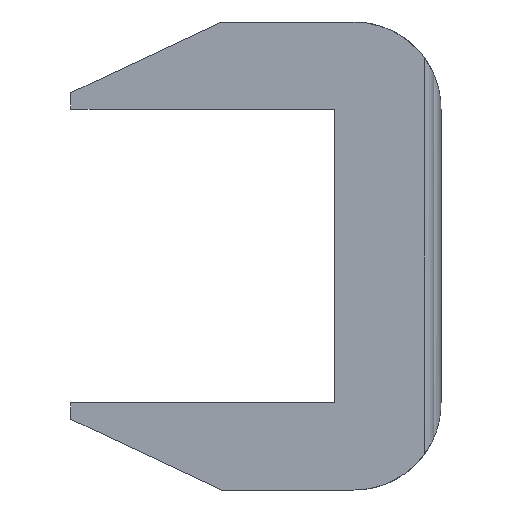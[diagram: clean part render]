
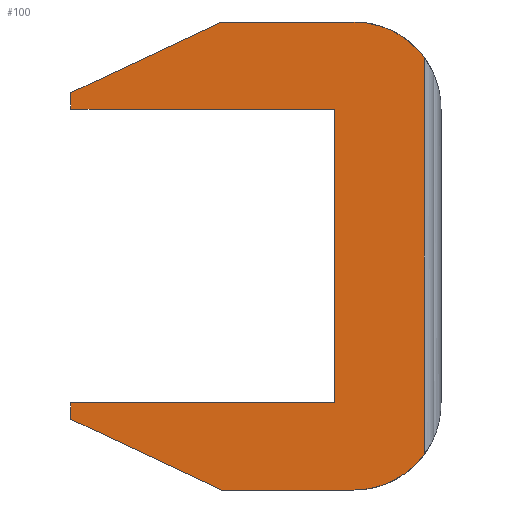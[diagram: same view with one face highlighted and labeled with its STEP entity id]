
A CAD part, front view. The second image highlights one B-rep face of the part: STEP entity #100.
In plain terms, the highlighted planar face has unit normal (0, -1, 0).
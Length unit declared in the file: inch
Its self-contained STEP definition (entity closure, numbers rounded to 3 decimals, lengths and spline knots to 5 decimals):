
#100=ADVANCED_FACE('',(#212),#213,.F.);
#212=FACE_OUTER_BOUND('',#418,.T.);
#213=PLANE('',#419);
#418=EDGE_LOOP('',(#651,#652,#653,#654,#655,#656,#657,#658,#659,#660,#661,#662));
#419=AXIS2_PLACEMENT_3D('',#663,#664,#665);
#651=ORIENTED_EDGE('',*,*,#910,.F.);
#652=ORIENTED_EDGE('',*,*,#911,.F.);
#653=ORIENTED_EDGE('',*,*,#854,.F.);
#654=ORIENTED_EDGE('',*,*,#912,.F.);
#655=ORIENTED_EDGE('',*,*,#913,.F.);
#656=ORIENTED_EDGE('',*,*,#897,.F.);
#657=ORIENTED_EDGE('',*,*,#914,.F.);
#658=ORIENTED_EDGE('',*,*,#915,.F.);
#659=ORIENTED_EDGE('',*,*,#916,.F.);
#660=ORIENTED_EDGE('',*,*,#883,.F.);
#661=ORIENTED_EDGE('',*,*,#917,.F.);
#662=ORIENTED_EDGE('',*,*,#822,.T.);
#663=CARTESIAN_POINT('',(0.14609,0.,-0.19169));
#664=DIRECTION('',(0.0,1.0,0.0));
#665=DIRECTION('',(-1.0,0.0,0.0));
#822=EDGE_CURVE('',#967,#964,#968,.T.);
#854=EDGE_CURVE('',#1021,#1022,#1023,.T.);
#883=EDGE_CURVE('',#1068,#1069,#1070,.T.);
#897=EDGE_CURVE('',#1090,#1091,#1092,.T.);
#910=EDGE_CURVE('',#1109,#964,#1110,.T.);
#911=EDGE_CURVE('',#1022,#1109,#1111,.T.);
#912=EDGE_CURVE('',#1112,#1021,#1113,.T.);
#913=EDGE_CURVE('',#1091,#1112,#1114,.T.);
#914=EDGE_CURVE('',#1115,#1090,#1116,.T.);
#915=EDGE_CURVE('',#1117,#1115,#1118,.T.);
#916=EDGE_CURVE('',#1069,#1117,#1119,.T.);
#917=EDGE_CURVE('',#967,#1068,#1120,.T.);
#964=VERTEX_POINT('',#1177);
#967=VERTEX_POINT('',#1189);
#968=LINE('',#1190,#1191);
#1021=VERTEX_POINT('',#1308);
#1022=VERTEX_POINT('',#1309);
#1023=LINE('',#1310,#1311);
#1068=VERTEX_POINT('',#1436);
#1069=VERTEX_POINT('',#1437);
#1070=LINE('',#1438,#1439);
#1090=VERTEX_POINT('',#1486);
#1091=VERTEX_POINT('',#1487);
#1092=LINE('',#1488,#1489);
#1109=VERTEX_POINT('',#1518);
#1110=B_SPLINE_CURVE_WITH_KNOTS('',3,(#1519,#1520,#1521,#1522,#1523,#1524,#1525,#1526),.UNSPECIFIED.,.F.,.F.,(4,2,2,4),(-0.57191,-0.37868,-0.19257,-0.0),.UNSPECIFIED.);
#1111=LINE('',#1527,#1528);
#1112=VERTEX_POINT('',#1529);
#1113=LINE('',#1530,#1531);
#1114=LINE('',#1532,#1533);
#1115=VERTEX_POINT('',#1534);
#1116=LINE('',#1535,#1536);
#1117=VERTEX_POINT('',#1537);
#1118=LINE('',#1538,#1539);
#1119=LINE('',#1540,#1541);
#1120=B_SPLINE_CURVE_WITH_KNOTS('',3,(#1542,#1543,#1544,#1545,#1546,#1547,#1548,#1549),.UNSPECIFIED.,.F.,.F.,(4,2,2,4),(-0.57307,-0.38571,-0.19345,-0.0),.UNSPECIFIED.);
#1177=CARTESIAN_POINT('',(1.16667,0.,2.48159));
#1189=CARTESIAN_POINT('',(1.16667,0.,0.20591));
#1190=CARTESIAN_POINT('',(1.16667,0.,-0.19169));
#1191=VECTOR('',#1696,1.0);
#1308=CARTESIAN_POINT('',(-0.86274,0.,2.28125));
#1309=CARTESIAN_POINT('',(0.0,0.,2.6875));
#1310=CARTESIAN_POINT('',(-0.71075,0.,2.35282));
#1311=VECTOR('',#1710,1.0);
#1436=CARTESIAN_POINT('',(0.76226,0.,0.0));
#1437=CARTESIAN_POINT('',(0.0,0.,0.0));
#1438=CARTESIAN_POINT('',(0.26361,0.,0.0));
#1439=VECTOR('',#1722,1.0);
#1486=CARTESIAN_POINT('',(0.64952,0.,0.5));
#1487=CARTESIAN_POINT('',(0.64952,0.,2.1875));
#1488=CARTESIAN_POINT('',(0.64952,0.,0.57603));
#1489=VECTOR('',#1732,1.0);
#1518=CARTESIAN_POINT('',(0.76226,0.,2.6875));
#1519=CARTESIAN_POINT('',(0.76226,0.,2.6875));
#1520=CARTESIAN_POINT('',(0.8268,0.,2.6875));
#1521=CARTESIAN_POINT('',(0.89025,0.,2.67527));
#1522=CARTESIAN_POINT('',(1.00746,0.,2.62777));
#1523=CARTESIAN_POINT('',(1.06011,0.,2.59388));
#1524=CARTESIAN_POINT('',(1.1519,0.,2.50732));
#1525=CARTESIAN_POINT('',(1.18982,0.,2.4547));
#1526=CARTESIAN_POINT('',(1.21667,0.,2.39639));
#1527=CARTESIAN_POINT('',(0.26361,0.,2.6875));
#1528=VECTOR('',#1739,1.0);
#1529=CARTESIAN_POINT('',(-0.86274,0.,2.1875));
#1530=CARTESIAN_POINT('',(-0.86274,0.,1.02134));
#1531=VECTOR('',#1740,1.0);
#1532=CARTESIAN_POINT('',(0.01974,0.,2.1875));
#1533=VECTOR('',#1741,1.0);
#1534=CARTESIAN_POINT('',(-0.86274,0.,0.5));
#1535=CARTESIAN_POINT('',(0.01974,0.,0.5));
#1536=VECTOR('',#1742,1.0);
#1537=CARTESIAN_POINT('',(-0.86274,0.,0.40625));
#1538=CARTESIAN_POINT('',(-0.86274,0.,0.13072));
#1539=VECTOR('',#1743,1.0);
#1540=CARTESIAN_POINT('',(-0.11896,0.,0.05601));
#1541=VECTOR('',#1744,1.0);
#1542=CARTESIAN_POINT('',(1.21667,0.,0.29111));
#1543=CARTESIAN_POINT('',(1.1906,0.,0.2345));
#1544=CARTESIAN_POINT('',(1.15409,0.,0.18323));
#1545=CARTESIAN_POINT('',(1.06322,0.,0.09563));
#1546=CARTESIAN_POINT('',(1.00909,0.,0.06037));
#1547=CARTESIAN_POINT('',(0.89014,0.,0.01221));
#1548=CARTESIAN_POINT('',(0.82674,0.,0.0));
#1549=CARTESIAN_POINT('',(0.76226,0.,0.0));
#1696=DIRECTION('',(0.0,0.0,1.0));
#1710=DIRECTION('',(0.905,0.0,0.426));
#1722=DIRECTION('',(-1.0,0.0,-0.0));
#1732=DIRECTION('',(0.0,0.0,1.0));
#1739=DIRECTION('',(1.0,0.0,0.0));
#1740=DIRECTION('',(0.0,0.0,1.0));
#1741=DIRECTION('',(-1.0,0.0,-0.0));
#1742=DIRECTION('',(1.0,0.0,0.0));
#1743=DIRECTION('',(0.0,0.0,1.0));
#1744=DIRECTION('',(-0.905,0.0,0.426));
